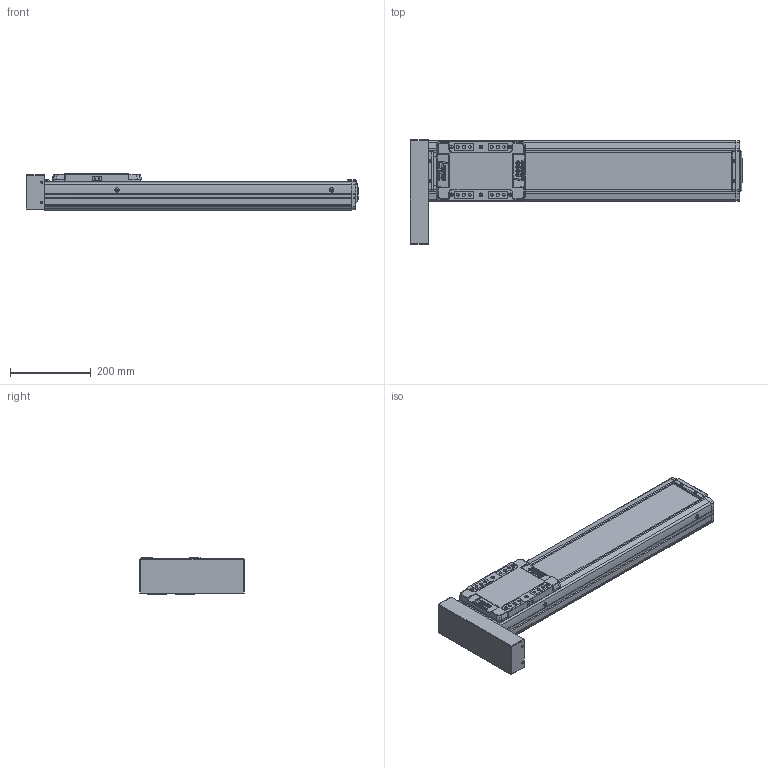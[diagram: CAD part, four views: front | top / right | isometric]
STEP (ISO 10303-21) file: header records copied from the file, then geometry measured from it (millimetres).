
FILE_DESCRIPTION(('STEP AP214'),'1');
FILE_NAME('Z:/Web/3D/SAN150/2013.04 (STP.)/SAN150ㅁㅁ-500PR.stp','2013-05-07T11:28:26',(' '),(' '),'Spatial InterOp 3D',' ',' ');
FILE_SCHEMA(('automotive_design'));
Length unit declared in the file: millimetre
Products named in the file (40): SLBL-SAN150; SLCV-SAN150; FHCS M4.0 x 8.0; BHCS M4.0 x 10.0; SFX-SAN150; RRCV-SAN150; FRBL-SAN150; Spacer; RN15; FRCV-SAN150; Screw 20; BASE-SAN150-000L ; SUS COVER; 스크루 : Round - M5.0 x 6.0; BHCS M3.0 x 6.0; P
Bounding box: 820 x 260.73 x 90 mm (x, y, z)
Volume: 5511631.3 mm3; surface area: 933520.2 mm2
Topology: 40 solids, 40 shells, 2137 faces, 5485 edges, 3494 vertices
Faces by surface type: plane 1033, cylinder 761, cone 250, sphere 60, bspline 21, torus 12
Entity records: 84584 total; most frequent: CARTESIAN_POINT 13726, DIRECTION 11648, ORIENTED_EDGE 10738, EDGE_CURVE 5369, AXIS2_PLACEMENT_3D 4203, VERTEX_POINT 3494, LINE 3242, VECTOR 3242
